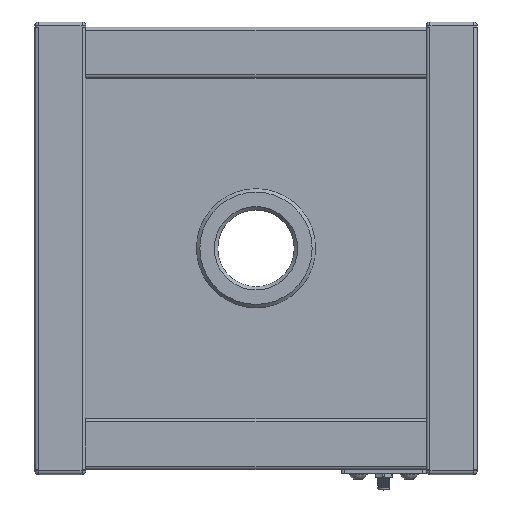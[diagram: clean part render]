
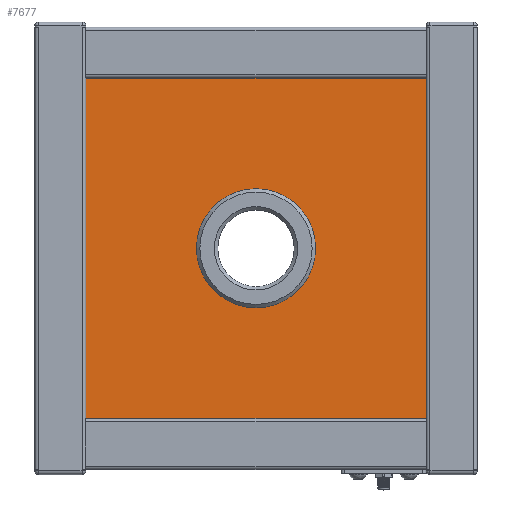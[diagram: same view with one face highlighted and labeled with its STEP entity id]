
A CAD part, top view. The second image highlights one B-rep face of the part: STEP entity #7677.
In plain terms, the highlighted planar face has unit normal (0, 0, 1).
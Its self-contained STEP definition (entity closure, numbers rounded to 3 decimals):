
#568 = FACE_OUTER_BOUND ( 'NONE', #22990, .T. ) ;
#988 = VERTEX_POINT ( 'NONE', #12768 ) ;
#1733 = VERTEX_POINT ( 'NONE', #10698 ) ;
#1922 = EDGE_CURVE ( 'NONE', #29118, #10469, #9387, .T. ) ;
#3023 = VERTEX_POINT ( 'NONE', #14935 ) ;
#3368 = VECTOR ( 'NONE', #26438, 1000. ) ;
#3847 = CARTESIAN_POINT ( 'NONE',  ( 100., -100., 0. ) ) ;
#4003 = DIRECTION ( 'NONE',  ( 0., 0., 1. ) ) ;
#4107 = ORIENTED_EDGE ( 'NONE', *, *, #27664, .T. ) ;
#4523 = EDGE_LOOP ( 'NONE', ( #4653 ) ) ;
#4653 = ORIENTED_EDGE ( 'NONE', *, *, #6551, .F. ) ;
#5242 = DIRECTION ( 'NONE',  ( 0., -1., 0. ) ) ;
#5541 = LINE ( 'NONE', #5777, #28926 ) ;
#5777 = CARTESIAN_POINT ( 'NONE',  ( 100., -100., 0. ) ) ;
#6551 = EDGE_CURVE ( 'NONE', #988, #988, #12732, .T. ) ;
#7677 = ADVANCED_FACE ( 'NONE', ( #11533, #568 ), #27020, .T. ) ;
#7795 = ORIENTED_EDGE ( 'NONE', *, *, #9451, .T. ) ;
#7831 = VECTOR ( 'NONE', #13930, 1000. ) ;
#8676 = CARTESIAN_POINT ( 'NONE',  ( 0., 0., 0. ) ) ;
#9340 = VECTOR ( 'NONE', #5242, 1000. ) ;
#9387 = LINE ( 'NONE', #3847, #3368 ) ;
#9451 = EDGE_CURVE ( 'NONE', #3023, #29118, #21397, .T. ) ;
#9599 = ORIENTED_EDGE ( 'NONE', *, *, #22486, .T. ) ;
#10469 = VERTEX_POINT ( 'NONE', #19948 ) ;
#10698 = CARTESIAN_POINT ( 'NONE',  ( 100., 100., 0. ) ) ;
#10979 = CARTESIAN_POINT ( 'NONE',  ( 0., 0., 0. ) ) ;
#11533 = FACE_BOUND ( 'NONE', #4523, .T. ) ;
#11970 = CARTESIAN_POINT ( 'NONE',  ( -100., -100., 0. ) ) ;
#12732 = CIRCLE ( 'NONE', #14348, 35. ) ;
#12768 = CARTESIAN_POINT ( 'NONE',  ( 0., -35., 0. ) ) ;
#13930 = DIRECTION ( 'NONE',  ( -1., 0., 0. ) ) ;
#14032 = CARTESIAN_POINT ( 'NONE',  ( 100., 100., 0. ) ) ;
#14348 = AXIS2_PLACEMENT_3D ( 'NONE', #8676, #4003, #15205 ) ;
#14935 = CARTESIAN_POINT ( 'NONE',  ( -100., 100., 0. ) ) ;
#15205 = DIRECTION ( 'NONE',  ( 0., -1., 0. ) ) ;
#17918 = DIRECTION ( 'NONE',  ( 0., -1., 0. ) ) ;
#18440 = CARTESIAN_POINT ( 'NONE',  ( -100., -100., 0. ) ) ;
#19710 = AXIS2_PLACEMENT_3D ( 'NONE', #10979, #29180, #17918 ) ;
#19948 = CARTESIAN_POINT ( 'NONE',  ( 100., -100., 0. ) ) ;
#21397 = LINE ( 'NONE', #11970, #9340 ) ;
#21425 = DIRECTION ( 'NONE',  ( 0., 1., 0. ) ) ;
#22486 = EDGE_CURVE ( 'NONE', #10469, #1733, #5541, .T. ) ;
#22990 = EDGE_LOOP ( 'NONE', ( #7795, #24876, #9599, #4107 ) ) ;
#24876 = ORIENTED_EDGE ( 'NONE', *, *, #1922, .T. ) ;
#26438 = DIRECTION ( 'NONE',  ( 1., 0., 0. ) ) ;
#27020 = PLANE ( 'NONE',  #19710 ) ;
#27296 = LINE ( 'NONE', #14032, #7831 ) ;
#27664 = EDGE_CURVE ( 'NONE', #1733, #3023, #27296, .T. ) ;
#28926 = VECTOR ( 'NONE', #21425, 1000. ) ;
#29118 = VERTEX_POINT ( 'NONE', #18440 ) ;
#29180 = DIRECTION ( 'NONE',  ( 0., 0., 1. ) ) ;
